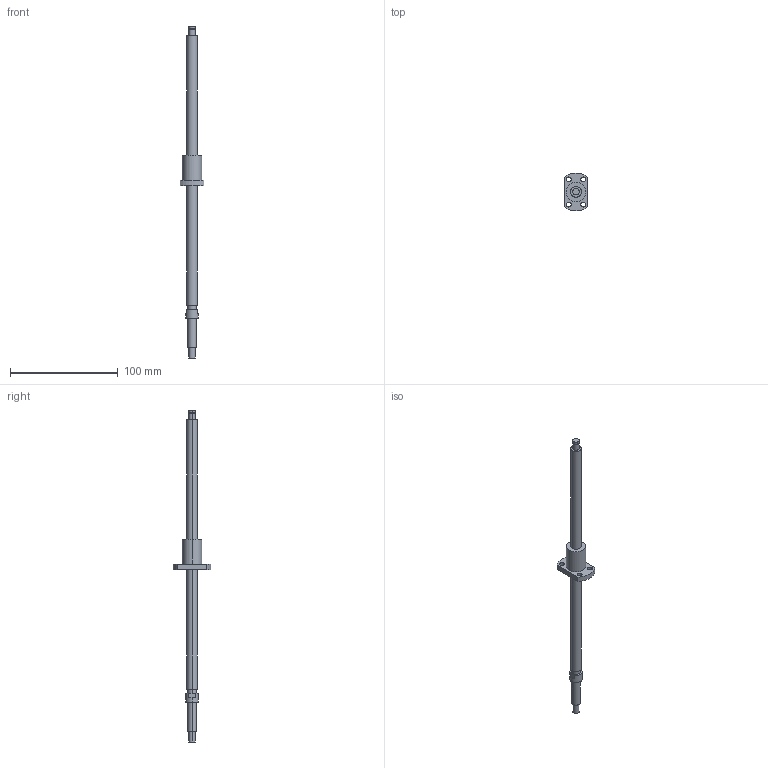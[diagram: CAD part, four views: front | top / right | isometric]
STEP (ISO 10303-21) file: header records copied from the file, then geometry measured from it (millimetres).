
FILE_DESCRIPTION((''),'2;1');
FILE_NAME('R10-2T3-FSI-250-308','2008-03-28T',('mahdi'),(''),'PRO/ENGINEER BY PARAMETRIC TECHNOLOGY CORPORATION, 2005070','PRO/ENGINEER BY PARAMETRIC TECHNOLOGY CORPORATION, 2005070','');
FILE_SCHEMA(('CONFIG_CONTROL_DESIGN'));
Length unit declared in the file: millimetre
Products named in the file (1): R10-2T3-FSI-250-308
Bounding box: 22 x 35 x 308 mm (x, y, z)
Volume: 29450.5 mm3; surface area: 11908.3 mm2
Topology: 1 solids, 1 shells, 48 faces, 108 edges, 72 vertices
Faces by surface type: cylinder 30, plane 18
Entity records: 1430 total; most frequent: DIRECTION 268, CARTESIAN_POINT 228, ORIENTED_EDGE 216, AXIS2_PLACEMENT_3D 112, EDGE_CURVE 108, VERTEX_POINT 72, EDGE_LOOP 66, CIRCLE 64
